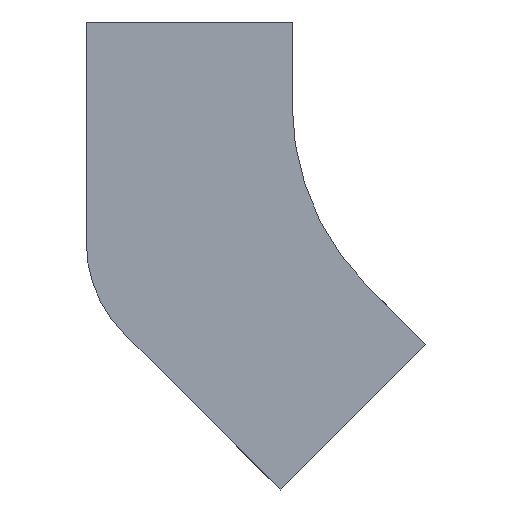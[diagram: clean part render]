
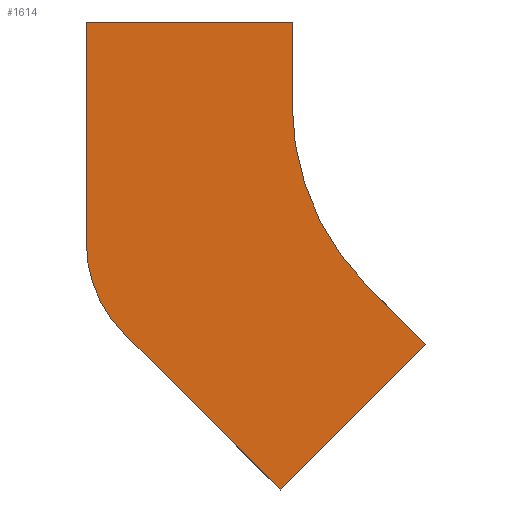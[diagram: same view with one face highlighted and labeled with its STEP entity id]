
A CAD part, front view. The second image highlights one B-rep face of the part: STEP entity #1614.
In plain terms, the highlighted planar face has unit normal (0, -1, 0).
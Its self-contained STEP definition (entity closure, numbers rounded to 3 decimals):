
#9 = VERTEX_POINT ( 'NONE', #1272 ) ;
#47 = VECTOR ( 'NONE', #343, 1000. ) ;
#79 = LINE ( 'NONE', #1513, #960 ) ;
#84 = VERTEX_POINT ( 'NONE', #639 ) ;
#126 = EDGE_CURVE ( 'NONE', #1669, #1064, #1190, .T. ) ;
#167 = ORIENTED_EDGE ( 'NONE', *, *, #383, .F. ) ;
#221 = VERTEX_POINT ( 'NONE', #1235 ) ;
#270 = DIRECTION ( 'NONE',  ( 0., 1., 0. ) ) ;
#274 = CARTESIAN_POINT ( 'NONE',  ( -206.694, 0., -111.504 ) ) ;
#278 = DIRECTION ( 'NONE',  ( 0., 0., 1. ) ) ;
#283 = LINE ( 'NONE', #905, #681 ) ;
#307 = DIRECTION ( 'NONE',  ( 0., -1., 0. ) ) ;
#334 = DIRECTION ( 'NONE',  ( 0., 0., -1. ) ) ;
#341 = DIRECTION ( 'NONE',  ( 0., 0., -1. ) ) ;
#343 = DIRECTION ( 'NONE',  ( -0.707, 0., 0.707 ) ) ;
#383 = EDGE_CURVE ( 'NONE', #632, #84, #79, .T. ) ;
#431 = EDGE_CURVE ( 'NONE', #9, #1669, #485, .T. ) ;
#456 = AXIS2_PLACEMENT_3D ( 'NONE', #1440, #270, #278 ) ;
#485 = LINE ( 'NONE', #1501, #47 ) ;
#510 = PLANE ( 'NONE',  #1144 ) ;
#511 = EDGE_LOOP ( 'NONE', ( #167, #1094, #1019, #986, #596, #1554, #1610, #958 ) ) ;
#594 = DIRECTION ( 'NONE',  ( 0.707, 0., -0.707 ) ) ;
#596 = ORIENTED_EDGE ( 'NONE', *, *, #1653, .F. ) ;
#632 = VERTEX_POINT ( 'NONE', #691 ) ;
#639 = CARTESIAN_POINT ( 'NONE',  ( -125., 0., 40. ) ) ;
#681 = VECTOR ( 'NONE', #801, 1000. ) ;
#691 = CARTESIAN_POINT ( 'NONE',  ( -225., 0., 40. ) ) ;
#693 = DIRECTION ( 'NONE',  ( 0., 0., 1. ) ) ;
#722 = CARTESIAN_POINT ( 'NONE',  ( -225., 0., -67.31 ) ) ;
#725 = VECTOR ( 'NONE', #594, 1000. ) ;
#801 = DIRECTION ( 'NONE',  ( -0.707, 0., -0.707 ) ) ;
#819 = LINE ( 'NONE', #1358, #1059 ) ;
#905 = CARTESIAN_POINT ( 'NONE',  ( -60.104, 0., -116.673 ) ) ;
#958 = ORIENTED_EDGE ( 'NONE', *, *, #1178, .F. ) ;
#960 = VECTOR ( 'NONE', #992, 1000. ) ;
#986 = ORIENTED_EDGE ( 'NONE', *, *, #431, .F. ) ;
#992 = DIRECTION ( 'NONE',  ( 1., 0., 0. ) ) ;
#1014 = VERTEX_POINT ( 'NONE', #1353 ) ;
#1019 = ORIENTED_EDGE ( 'NONE', *, *, #126, .F. ) ;
#1035 = CIRCLE ( 'NONE', #1387, 125. ) ;
#1059 = VECTOR ( 'NONE', #693, 1000. ) ;
#1060 = EDGE_CURVE ( 'NONE', #221, #1014, #1092, .T. ) ;
#1064 = VERTEX_POINT ( 'NONE', #722 ) ;
#1092 = LINE ( 'NONE', #1620, #725 ) ;
#1094 = ORIENTED_EDGE ( 'NONE', *, *, #1340, .F. ) ;
#1099 = CARTESIAN_POINT ( 'NONE',  ( 0., 0., 0. ) ) ;
#1144 = AXIS2_PLACEMENT_3D ( 'NONE', #1391, #1499, #341 ) ;
#1178 = EDGE_CURVE ( 'NONE', #84, #1331, #1639, .T. ) ;
#1190 = CIRCLE ( 'NONE', #456, 62.5 ) ;
#1235 = CARTESIAN_POINT ( 'NONE',  ( -88.388, 0., -88.388 ) ) ;
#1270 = CARTESIAN_POINT ( 'NONE',  ( -125., 0., 40. ) ) ;
#1272 = CARTESIAN_POINT ( 'NONE',  ( -130.815, 0., -187.383 ) ) ;
#1280 = VECTOR ( 'NONE', #1668, 1000. ) ;
#1331 = VERTEX_POINT ( 'NONE', #1366 ) ;
#1335 = EDGE_CURVE ( 'NONE', #1331, #221, #1035, .T. ) ;
#1340 = EDGE_CURVE ( 'NONE', #1064, #632, #819, .T. ) ;
#1353 = CARTESIAN_POINT ( 'NONE',  ( -60.104, 0., -116.673 ) ) ;
#1358 = CARTESIAN_POINT ( 'NONE',  ( -225., 0., -67.31 ) ) ;
#1366 = CARTESIAN_POINT ( 'NONE',  ( -125., 0., 0. ) ) ;
#1382 = FACE_OUTER_BOUND ( 'NONE', #511, .T. ) ;
#1387 = AXIS2_PLACEMENT_3D ( 'NONE', #1099, #307, #334 ) ;
#1391 = CARTESIAN_POINT ( 'NONE',  ( 0., 0., 0. ) ) ;
#1440 = CARTESIAN_POINT ( 'NONE',  ( -162.5, 0., -67.31 ) ) ;
#1499 = DIRECTION ( 'NONE',  ( 0., -1., 0. ) ) ;
#1501 = CARTESIAN_POINT ( 'NONE',  ( -130.815, 0., -187.383 ) ) ;
#1513 = CARTESIAN_POINT ( 'NONE',  ( -225., 0., 40. ) ) ;
#1554 = ORIENTED_EDGE ( 'NONE', *, *, #1060, .F. ) ;
#1610 = ORIENTED_EDGE ( 'NONE', *, *, #1335, .F. ) ;
#1614 = ADVANCED_FACE ( 'NONE', ( #1382 ), #510, .T. ) ;
#1620 = CARTESIAN_POINT ( 'NONE',  ( -88.388, 0., -88.388 ) ) ;
#1639 = LINE ( 'NONE', #1270, #1280 ) ;
#1653 = EDGE_CURVE ( 'NONE', #1014, #9, #283, .T. ) ;
#1668 = DIRECTION ( 'NONE',  ( 0., 0., -1. ) ) ;
#1669 = VERTEX_POINT ( 'NONE', #274 ) ;
